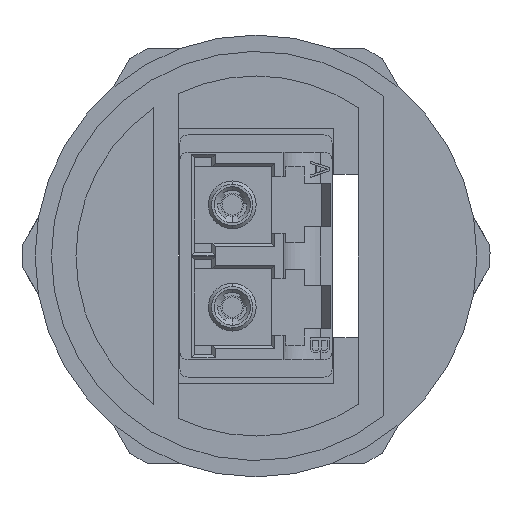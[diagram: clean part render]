
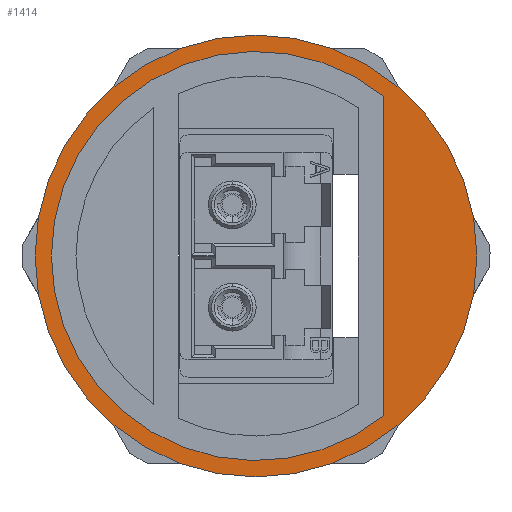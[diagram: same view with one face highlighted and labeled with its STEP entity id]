
A CAD part, left-side view. The second image highlights one B-rep face of the part: STEP entity #1414.
In plain terms, the highlighted planar face has unit normal (-1, 0, 0).
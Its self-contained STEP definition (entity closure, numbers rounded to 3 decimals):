
#1414=ADVANCED_FACE('',(#5953,#5954),#2218,.T.);
#2218=PLANE('',#15385);
#2769=LINE('',#20344,#4361);
#4361=VECTOR('',#16509,1.);
#5953=FACE_BOUND('',#6031,.T.);
#5954=FACE_BOUND('',#6032,.T.);
#6031=EDGE_LOOP('',(#6883,#6884));
#6032=EDGE_LOOP('',(#6885,#6886));
#6883=ORIENTED_EDGE('',*,*,#12785,.F.);
#6884=ORIENTED_EDGE('',*,*,#12786,.T.);
#6885=ORIENTED_EDGE('',*,*,#12787,.T.);
#6886=ORIENTED_EDGE('',*,*,#12788,.T.);
#11331=VERTEX_POINT('',#20341);
#11332=VERTEX_POINT('',#20342);
#11333=VERTEX_POINT('',#20345);
#11334=VERTEX_POINT('',#20346);
#12785=EDGE_CURVE('',#11331,#11332,#15009,.T.);
#12786=EDGE_CURVE('',#11331,#11332,#15010,.T.);
#12787=EDGE_CURVE('',#11333,#11334,#2769,.T.);
#12788=EDGE_CURVE('',#11334,#11333,#15011,.T.);
#15009=CIRCLE('',#15382,13.5);
#15010=CIRCLE('',#15383,13.5);
#15011=CIRCLE('',#15384,12.5);
#15382=AXIS2_PLACEMENT_3D('',#20340,#16505,#16506);
#15383=AXIS2_PLACEMENT_3D('',#20343,#16507,#16508);
#15384=AXIS2_PLACEMENT_3D('',#20347,#16510,#16511);
#15385=AXIS2_PLACEMENT_3D('',#20348,#16512,#16513);
#16505=DIRECTION('',(1.,0.,0.));
#16506=DIRECTION('',(0.,0.,1.));
#16507=DIRECTION('',(-1.,0.,0.));
#16508=DIRECTION('',(0.,0.,1.));
#16509=DIRECTION('',(0.,0.,-1.));
#16510=DIRECTION('',(1.,0.,0.));
#16511=DIRECTION('',(0.,-0.624,-0.781));
#16512=DIRECTION('',(-1.,0.,0.));
#16513=DIRECTION('',(0.,-1.,0.));
#20340=CARTESIAN_POINT('',(-27.4,0.,0.));
#20341=CARTESIAN_POINT('',(-27.4,0.,13.5));
#20342=CARTESIAN_POINT('',(-27.4,0.,-13.5));
#20343=CARTESIAN_POINT('',(-27.4,0.,0.));
#20344=CARTESIAN_POINT('',(-27.4,-7.8,9.768));
#20345=CARTESIAN_POINT('',(-27.4,-7.8,9.768));
#20346=CARTESIAN_POINT('',(-27.4,-7.8,-9.768));
#20347=CARTESIAN_POINT('',(-27.4,0.,0.));
#20348=CARTESIAN_POINT('',(-27.4,0.,0.));
